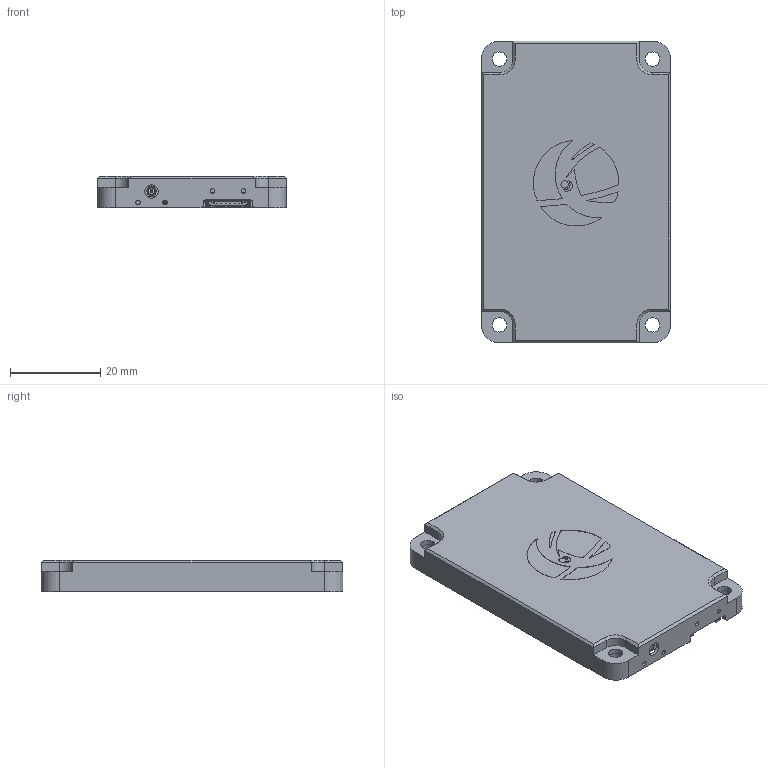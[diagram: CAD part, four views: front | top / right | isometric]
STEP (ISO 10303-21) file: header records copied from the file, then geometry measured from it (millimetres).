
FILE_DESCRIPTION(/* description */ ('Unknown'),/* implementation_level */ '2;1');
FILE_NAME(/* name */ 'celeste_gnss_rx_V3b_low_detail',/* time_stamp */ '2024-02-20T13:06:31+01:00',/* author */ ('Unknown'),/* organization */ ('Unknown'),/* preprocessor_version */ 'ST-DEVELOPER v16.7',/* originating_system */ 'Solid Edge',/* authorisation */ 'Unknown');
FILE_SCHEMA (('AUTOMOTIVE_DESIGN {1 0 10303 214 3 1 1}'));
Products named in the file (34): celeste_gnss_rx_V3b_low_detail; TQFP-64_10x10mm_P0.5mm; SOLID_3; SOIC8_Wide_5mmx5mm; SOLID_4; SOIC-8_3.9x4.9mm_P1.27mm; SOLID_6; 595D_B; SOLID_7; ssmcx; SOLID_8; QFN-28-1EP_6x6mm_P0.65mm_EP4.25x4.25mm; SOLID_9; Crystal_ECX-32; SOLID_10; CFPX-217; SOLID_11; LED_0603_1608Metric; SOLID_14; Infineon-STP_PG-TSLP-7-1-P-v01_00-EN; COMPOUND; 595D_C; SOLID_15; GPS_Module; SOLID_16; RxBPF3225; SOLID_18; Molex_SlimStack_556500688; SOLID_19; Molex_Pico-Lock_6_1mm; SOLID_20; celeste_gnss_rx_V3b PCB; Screw_M1.4x3; cover_CELESTE_GNSS_RX_V2
Assembly tree (41 placements, depth 3):
  celeste_gnss_rx_V3b_low_detail
    TQFP-64_10x10mm_P0.5mm
      SOLID_3
    SOIC8_Wide_5mmx5mm
      SOLID_4
    SOIC-8_3.9x4.9mm_P1.27mm
      SOLID_6
    595D_B  x2
      SOLID_7
    ssmcx
      SOLID_8
    QFN-28-1EP_6x6mm_P0.65mm_EP4.25x4.25mm
      SOLID_9
    Crystal_ECX-32
      SOLID_10
    CFPX-217
      SOLID_11
    LED_0603_1608Metric  x2
      SOLID_14
    Infineon-STP_PG-TSLP-7-1-P-v01_00-EN
      COMPOUND
    595D_C
      SOLID_15
    GPS_Module
      SOLID_16
    RxBPF3225
      SOLID_18
    Molex_SlimStack_556500688
      SOLID_19
    Molex_Pico-Lock_6_1mm
      SOLID_20
    celeste_gnss_rx_V3b PCB
    Screw_M1.4x3  x7
    cover_CELESTE_GNSS_RX_V2
Bounding box: 42 x 67 x 7 mm (x, y, z)
Volume: 9251.4 mm3; surface area: 16404.4 mm2
Topology: 32 solids, 32 shells, 5001 faces, 14537 edges, 9383 vertices
Faces by surface type: plane 3987, cylinder 895, torus 45, cone 32, sphere 24, bspline 18
Full cylindrical faces by diameter (mm): 0.381 x3, 0.4 x1, 0.46 x1, 0.5 x3, 0.58 x1, 0.6 x1, 0.65 x1, 0.704 x1, 1 x6, 1.1 x7, 1.2 x2, 1.4 x7, 1.5 x8, 1.662 x1, 1.82 x1, 2 x1, 2.05 x1, 2.75 x7, 3 x1, 3.2 x8
Entity records: 194144 total; most frequent: CARTESIAN_POINT 31662, ORIENTED_EDGE 28016, DIRECTION 25318, EDGE_CURVE 14008, LINE 12214, VECTOR 12214, VERTEX_POINT 9121, AXIS2_PLACEMENT_3D 6552
